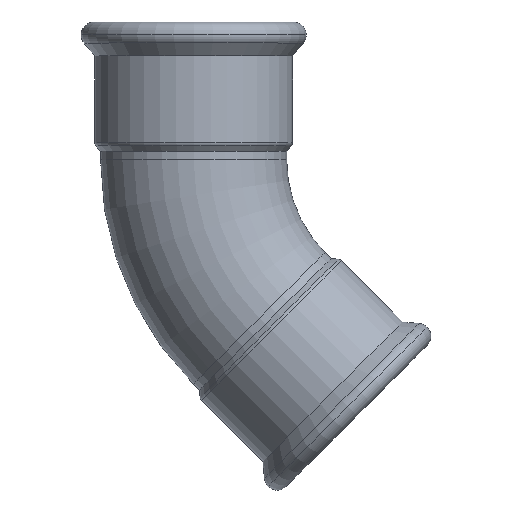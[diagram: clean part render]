
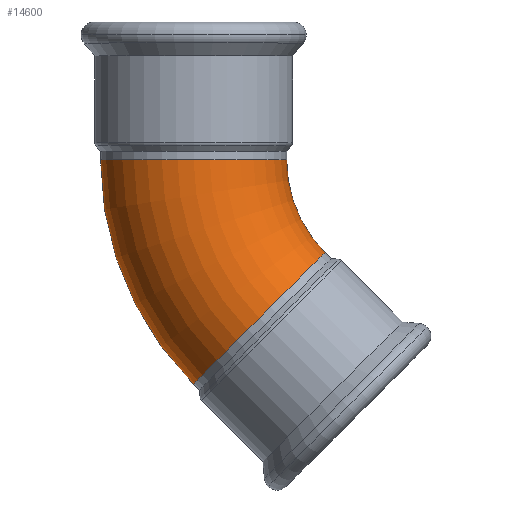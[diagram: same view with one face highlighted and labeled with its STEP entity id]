
A CAD part, top view. The second image highlights one B-rep face of the part: STEP entity #14600.
In plain terms, the highlighted toroidal (fillet/blend) face has major radius 65 mm and minor radius 27 mm.
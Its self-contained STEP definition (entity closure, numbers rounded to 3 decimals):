
#13930=CARTESIAN_POINT('',(57.344,191.219,
0.));
#13940=VERTEX_POINT('',#13930);
#14080=CARTESIAN_POINT('',(3.344,191.219,0.));
#14090=VERTEX_POINT('',#14080);
#14170=CARTESIAN_POINT('',(95.344,191.219,0.));
#14180=DIRECTION('',(0.,0.,1.));
#14190=DIRECTION('',(-1.,0.,0.));
#14200=AXIS2_PLACEMENT_3D('',#14170,#14180,#14190);
#14210=TOROIDAL_SURFACE('',#14200,65.,27.);
#14220=CARTESIAN_POINT('',(49.382,145.257,0.));
#14230=DIRECTION('',(0.707,-0.707,0.));
#14240=DIRECTION('',(-0.707,-0.707,0.));
#14250=AXIS2_PLACEMENT_3D('',#14220,#14230,#14240);
#14260=CIRCLE('',#14250,27.);
#14270=CARTESIAN_POINT('',(49.382,145.257,27.));
#14280=VERTEX_POINT('',#14270);
#14290=CARTESIAN_POINT('',(30.29,126.165,
0.));
#14300=VERTEX_POINT('',#14290);
#14310=EDGE_CURVE('',#14280,#14300,#14260,.T.);
#14320=ORIENTED_EDGE('',*,*,#14310,.F.);
#14330=CARTESIAN_POINT('',(95.344,191.219,
0.));
#14340=DIRECTION('',(0.,0.,1.));
#14350=DIRECTION('',(-1.,0.,0.));
#14360=AXIS2_PLACEMENT_3D('',#14330,#14340,#14350);
#14370=CIRCLE('',#14360,92.);
#14380=EDGE_CURVE('',#14090,#14300,#14370,.T.);
#14390=ORIENTED_EDGE('',*,*,#14380,.T.);
#14400=CARTESIAN_POINT('',(30.344,191.219,0.));
#14410=DIRECTION('',(0.,-1.,0.));
#14420=DIRECTION('',(-1.,0.,0.));
#14430=AXIS2_PLACEMENT_3D('',#14400,#14410,#14420);
#14440=CIRCLE('',#14430,27.);
#14450=EDGE_CURVE('',#13940,#14090,#14440,.T.);
#14460=ORIENTED_EDGE('',*,*,#14450,.T.);
#14470=CARTESIAN_POINT('',(95.344,191.219,
0.));
#14480=DIRECTION('',(0.,0.,1.));
#14490=DIRECTION('',(-1.,0.,0.));
#14500=AXIS2_PLACEMENT_3D('',#14470,#14480,#14490);
#14510=CIRCLE('',#14500,38.);
#14520=CARTESIAN_POINT('',(68.474,164.349,
0.));
#14530=VERTEX_POINT('',#14520);
#14540=EDGE_CURVE('',#13940,#14530,#14510,.T.);
#14550=ORIENTED_EDGE('',*,*,#14540,.F.);
#14560=EDGE_CURVE('',#14530,#14280,#14260,.T.);
#14570=ORIENTED_EDGE('',*,*,#14560,.F.);
#14580=EDGE_LOOP('',(#14570,#14550,#14460,#14390,#14320));
#14590=FACE_OUTER_BOUND('',#14580,.T.);
#14600=ADVANCED_FACE('',(#14590),#14210,.T.);
